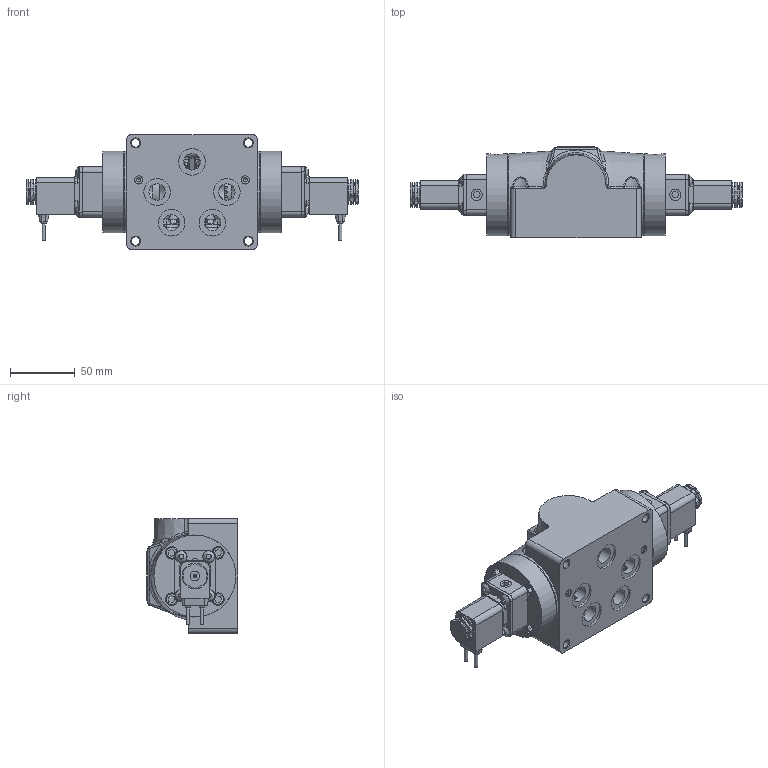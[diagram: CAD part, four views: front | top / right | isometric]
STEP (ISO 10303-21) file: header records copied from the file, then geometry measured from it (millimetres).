
FILE_DESCRIPTION(/* description */ (''),/* implementation_level */ '2;1');
FILE_NAME(/* name */ 'ESS4PMCZ.stp',/* time_stamp */ '2026-09-29T07:44:05-04:00',/* author */ ('rmckenna'),/* organization */ (''),/* preprocessor_version */ 'ST-DEVELOPER v20.2',/* originating_system */ 'Autodesk Inventor 2027',/* authorisation */ '');
FILE_SCHEMA (('AUTOMOTIVE_DESIGN { 1 0 10303 214 3 1 1 }'));
Products named in the file (1): Part23
Bounding box: 257.37 x 71.21 x 88.9 mm (x, y, z)
Volume: 608638.9 mm3; surface area: 149784.8 mm2
Topology: 1 solids, 41 shells, 2804 faces, 7002 edges, 4383 vertices
Faces by surface type: plane 1063, cylinder 811, cone 379, bspline 343, torus 182, sphere 26
Full cylindrical faces by diameter (mm): 1.168 x20, 1.3 x2, 1.397 x2, 1.5 x2, 2.032 x8, 2.07 x2, 2.261 x2, 2.35 x8, 2.388 x2, 2.54 x4, 2.778 x2, 2.8 x2, 2.819 x2, 3 x8, 3.048 x8, 3.175 x6, 3.4 x2, 3.683 x10, 4.191 x4, 4.826 x8, 4.953 x2, 4.978 x8, 5.15 x8, 5.156 x8, 5.5 x2, 5.556 x2, 6.35 x10, 6.553 x2, 6.629 x4, 6.747 x8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
Entity records: 101814 total; most frequent: CARTESIAN_POINT 33784, ORIENTED_EDGE 13908, DIRECTION 12909, EDGE_CURVE 6954, AXIS2_PLACEMENT_3D 4885, VERTEX_POINT 4379, LINE 3139, VECTOR 3139
